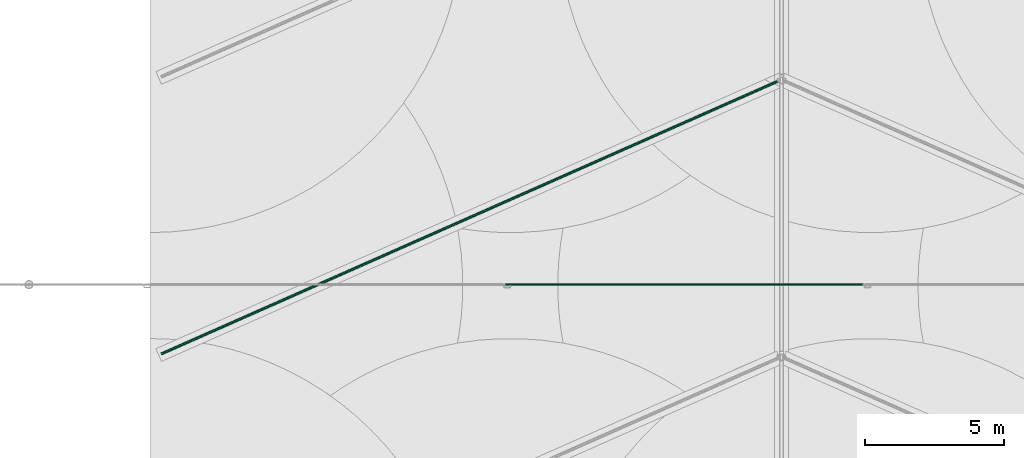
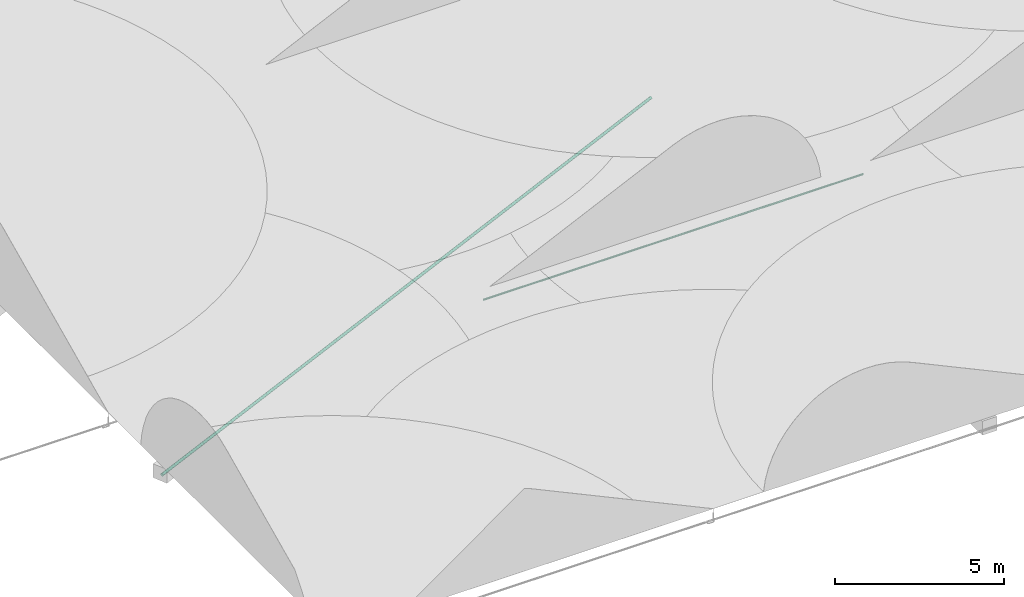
# One storey, part 9 of 166: 2 flow segments.
"""IFC2X3 building model written with IfcOpenShell, lengths in metres."""

from ifc_helpers import new_model, entity, si_unit, converted_unit, direction, frame, frame_2d, origin, place, context, subcontext, project, spatial, circle, extrude, type_object, element, save


model = new_model("IFC2X3")

# Units and contexts
model_context = context("Model", 3, precision=1e-05, world=origin(), true_north=direction((6.123233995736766e-17, 1.0)))
body_context = subcontext(model_context, "Body", "Model", "MODEL_VIEW")
ifc_project = project(units=[si_unit("LENGTHUNIT", "METRE"), converted_unit("PLANEANGLEUNIT", "DEGREE", entity("IfcPlaneAngleMeasure", 0.017453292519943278), si_unit("PLANEANGLEUNIT", "RADIAN"), dimensions=[0, 0, 0, 0, 0, 0, 0]), si_unit("AREAUNIT", "SQUARE_METRE")], contexts=[model_context])

# Site, building, storey
site_placement = place(None, origin())
site = spatial("IfcSite", under=ifc_project, at=site_placement, Name="Default", CompositionType="ELEMENT")
building_placement = place(site_placement, origin())
building = spatial("IfcBuilding", under=site, at=building_placement, Name="CASA DE ACOLHIDA PARA IDOSOS", CompositionType="ELEMENT")
storey_placement = place(building_placement, frame((0.0, 0.0, -1.7499999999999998)))
storey = spatial("IfcBuildingStorey", under=building, at=storey_placement, Name="IMPLANTAÇÃO DRENAGEM", CompositionType="ELEMENT", Elevation=-1.7499999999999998)

# Flow segments
pipe_segment_type_1 = type_object("IfcPipeSegmentType", Name="Tipos de tubos:PLUV_Tubo PEAD Corrugado", PredefinedType="NOTDEFINED")
flow_segment_1_placement = place(storey_placement, origin())
element("IfcFlowSegment", 1, at=flow_segment_1_placement, inside=storey, type_object=pipe_segment_type_1, Name="Tipos de tubos:PLUV_Tubo PEAD Corrugado", ObjectType="Tipos de tubos:PLUV_Tubo PEAD Corrugado", context=body_context, shape_type="SweptSolid", body=[
    extrude(circle(Radius=0.05, at=frame_2d((-4.951603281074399e-16, 2.190017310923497e-18), x_axis=(1.0, 0.0))), frame((-21.981366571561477, 3.8549420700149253, -0.8947999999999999), z_axis=(-0.9144899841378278, -0.40448495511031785, 0.009999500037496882), x_axis=(0.40450517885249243, -0.9145357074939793, 0.0)), (0.0, 0.0, 1.0), 24.480228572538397),
])
pipe_segment_type_2 = type_object("IfcPipeSegmentType", Name="Tipos de tubos:AF_Tubo Marrom Soldável", PredefinedType="NOTDEFINED")
flow_segment_2_placement = place(storey_placement, origin())
element("IfcFlowSegment", 2, at=flow_segment_2_placement, inside=storey, type_object=pipe_segment_type_2, Name="Tipos de tubos:AF_Tubo Marrom Soldável", ObjectType="Tipos de tubos:AF_Tubo Marrom Soldável", context=body_context, shape_type="SweptSolid", body=[
    extrude(circle(Radius=0.025, at=frame_2d((0.0, -2.707167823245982e-16), x_axis=(1.0, 0.0))), frame((-31.95834889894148, -3.5450579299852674, -0.19999999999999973), z_axis=(1.0, 0.0, 0.0), x_axis=(0.0, -1.0, 0.0)), (0.0, 0.0, 1.0), 12.934800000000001),
])

save(model, "model.ifc")
